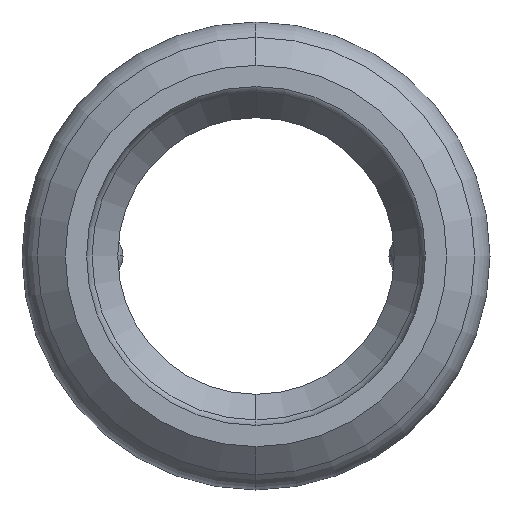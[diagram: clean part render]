
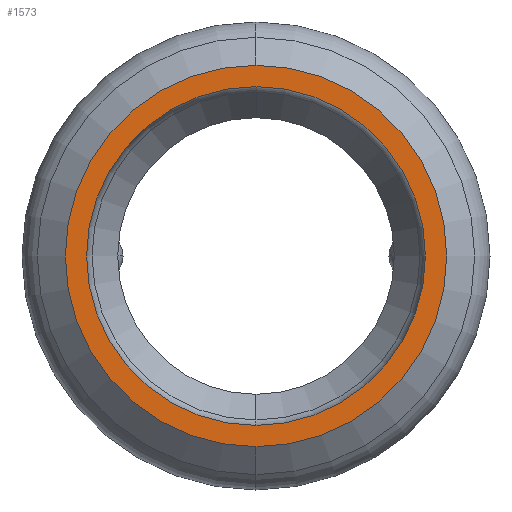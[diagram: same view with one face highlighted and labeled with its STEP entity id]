
A CAD part, left-side view. The second image highlights one B-rep face of the part: STEP entity #1573.
In plain terms, the highlighted planar face has unit normal (-1, 0, 0).
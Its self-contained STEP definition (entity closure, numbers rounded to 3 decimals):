
#9 = CARTESIAN_POINT ( 'NONE',  ( -54., -12.55, 0. ) ) ;
#88 = CARTESIAN_POINT ( 'NONE',  ( -54., 0., -11.15 ) ) ;
#243 = CARTESIAN_POINT ( 'NONE',  ( -54., 0., 12.55 ) ) ;
#313 = VERTEX_POINT ( 'NONE', #973 ) ;
#356 = CARTESIAN_POINT ( 'NONE',  ( -54., 0., 0. ) ) ;
#408 = VERTEX_POINT ( 'NONE', #243 ) ;
#413 = EDGE_LOOP ( 'NONE', ( #1791, #652 ) ) ;
#511 = DIRECTION ( 'NONE',  ( 0., -1., 0. ) ) ;
#603 = AXIS2_PLACEMENT_3D ( 'NONE', #356, #1391, #511 ) ;
#610 = DIRECTION ( 'NONE',  ( 0., -1., 0. ) ) ;
#652 = ORIENTED_EDGE ( 'NONE', *, *, #1226, .T. ) ;
#655 = EDGE_CURVE ( 'NONE', #408, #1537, #1577, .T. ) ;
#669 = CARTESIAN_POINT ( 'NONE',  ( -54., 0., 0. ) ) ;
#693 = CARTESIAN_POINT ( 'NONE',  ( -54., 0., 0. ) ) ;
#700 = CIRCLE ( 'NONE', #813, 11.15 ) ;
#705 = DIRECTION ( 'NONE',  ( -1., 0., 0. ) ) ;
#715 = EDGE_CURVE ( 'NONE', #313, #1770, #700, .T. ) ;
#722 = DIRECTION ( 'NONE',  ( 0., -1., 0. ) ) ;
#739 = DIRECTION ( 'NONE',  ( -1., 0., 0. ) ) ;
#813 = AXIS2_PLACEMENT_3D ( 'NONE', #669, #1688, #825 ) ;
#825 = DIRECTION ( 'NONE',  ( 0., -1., 0. ) ) ;
#836 = AXIS2_PLACEMENT_3D ( 'NONE', #693, #705, #722 ) ;
#879 = CARTESIAN_POINT ( 'NONE',  ( -54., 0., -12.55 ) ) ;
#881 = CARTESIAN_POINT ( 'NONE',  ( -54., 0., 0. ) ) ;
#973 = CARTESIAN_POINT ( 'NONE',  ( -54., 0., 11.15 ) ) ;
#1008 = EDGE_LOOP ( 'NONE', ( #1155, #1766 ) ) ;
#1009 = AXIS2_PLACEMENT_3D ( 'NONE', #9, #1393, #1500 ) ;
#1027 = FACE_OUTER_BOUND ( 'NONE', #413, .T. ) ;
#1073 = AXIS2_PLACEMENT_3D ( 'NONE', #881, #739, #610 ) ;
#1155 = ORIENTED_EDGE ( 'NONE', *, *, #715, .F. ) ;
#1223 = PLANE ( 'NONE',  #1009 ) ;
#1226 = EDGE_CURVE ( 'NONE', #1537, #408, #1586, .T. ) ;
#1391 = DIRECTION ( 'NONE',  ( -1., 0., 0. ) ) ;
#1393 = DIRECTION ( 'NONE',  ( -1., 0., 0. ) ) ;
#1402 = CIRCLE ( 'NONE', #1073, 11.15 ) ;
#1469 = FACE_BOUND ( 'NONE', #1008, .T. ) ;
#1500 = DIRECTION ( 'NONE',  ( 0., -1., 0. ) ) ;
#1537 = VERTEX_POINT ( 'NONE', #879 ) ;
#1573 = ADVANCED_FACE ( 'NONE', ( #1027, #1469 ), #1223, .T. ) ;
#1577 = CIRCLE ( 'NONE', #603, 12.55 ) ;
#1586 = CIRCLE ( 'NONE', #836, 12.55 ) ;
#1688 = DIRECTION ( 'NONE',  ( -1., 0., 0. ) ) ;
#1766 = ORIENTED_EDGE ( 'NONE', *, *, #1823, .F. ) ;
#1770 = VERTEX_POINT ( 'NONE', #88 ) ;
#1791 = ORIENTED_EDGE ( 'NONE', *, *, #655, .T. ) ;
#1823 = EDGE_CURVE ( 'NONE', #1770, #313, #1402, .T. ) ;
